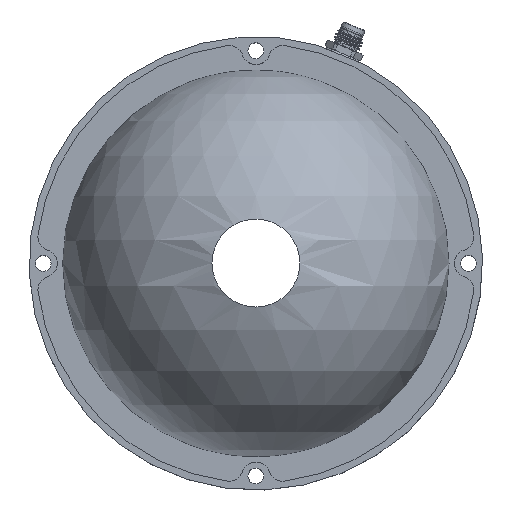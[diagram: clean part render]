
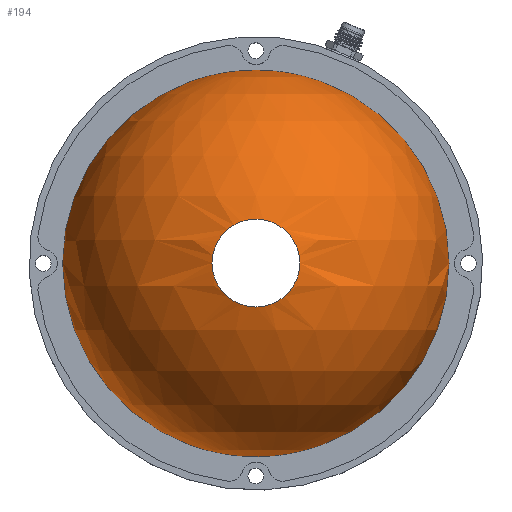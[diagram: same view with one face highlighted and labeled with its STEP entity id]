
A CAD part, top view. The second image highlights one B-rep face of the part: STEP entity #194.
In plain terms, the highlighted spherical face has radius 55 mm.
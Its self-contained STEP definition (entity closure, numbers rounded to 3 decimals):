
#194 = ADVANCED_FACE ( 'NONE', ( #11619, #10926 ), #13194, .T. ) ;
#711 = EDGE_LOOP ( 'NONE', ( #5738 ) ) ;
#717 = ORIENTED_EDGE ( 'NONE', *, *, #12695, .F. ) ;
#1037 = CARTESIAN_POINT ( 'NONE',  ( 0., 0., 0. ) ) ;
#2652 = CIRCLE ( 'NONE', #6358, 12.5 ) ;
#5132 = CARTESIAN_POINT ( 'NONE',  ( 0., 0., 51.561 ) ) ;
#5181 = AXIS2_PLACEMENT_3D ( 'NONE', #5311, #14256, #7562 ) ;
#5311 = CARTESIAN_POINT ( 'NONE',  ( 0., 0., -2. ) ) ;
#5738 = ORIENTED_EDGE ( 'NONE', *, *, #12036, .F. ) ;
#6358 = AXIS2_PLACEMENT_3D ( 'NONE', #5132, #8657, #10811 ) ;
#6830 = DIRECTION ( 'NONE',  ( 0., 0., -1. ) ) ;
#7562 = DIRECTION ( 'NONE',  ( -1., 0., 0. ) ) ;
#7928 = CARTESIAN_POINT ( 'NONE',  ( 0., -54.964, 0. ) ) ;
#8657 = DIRECTION ( 'NONE',  ( 0., 0., 1. ) ) ;
#9074 = CARTESIAN_POINT ( 'NONE',  ( 0., 12.5, 51.561 ) ) ;
#9268 = EDGE_LOOP ( 'NONE', ( #717 ) ) ;
#10192 = VERTEX_POINT ( 'NONE', #7928 ) ;
#10811 = DIRECTION ( 'NONE',  ( 0., 1., 0. ) ) ;
#10926 = FACE_OUTER_BOUND ( 'NONE', #9268, .T. ) ;
#11036 = AXIS2_PLACEMENT_3D ( 'NONE', #1037, #6830, #11157 ) ;
#11157 = DIRECTION ( 'NONE',  ( 0., -1., 0. ) ) ;
#11619 = FACE_OUTER_BOUND ( 'NONE', #711, .T. ) ;
#12036 = EDGE_CURVE ( 'NONE', #10192, #10192, #14215, .T. ) ;
#12695 = EDGE_CURVE ( 'NONE', #13663, #13663, #2652, .T. ) ;
#13194 = SPHERICAL_SURFACE ( 'NONE', #5181, 55. ) ;
#13663 = VERTEX_POINT ( 'NONE', #9074 ) ;
#14215 = CIRCLE ( 'NONE', #11036, 54.964 ) ;
#14256 = DIRECTION ( 'NONE',  ( 0., 1., 0. ) ) ;
